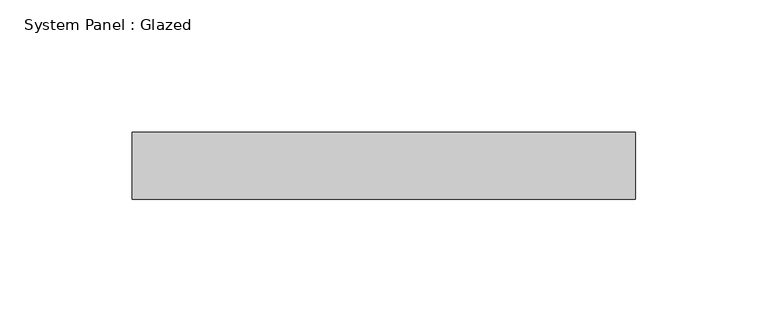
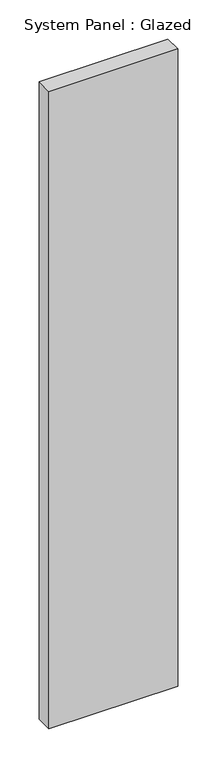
"""IFC4 building model written with IfcOpenShell, lengths in millimetres: plate geometry, System Panel : Glazed."""

from ifc_helpers import new_model, si_unit, origin, origin_with_axes, place, context, project, spatial, polyline, outline, extrude, source, transform, mapped, element, save


def system_panel_glazed_872f95dc(model_context):
    return source(origin(), model_context, "Body", "SweptSolid", [
        extrude(outline(polyline([(95.25, 19.05), (-95.25, 19.05), (-95.25, 44.45), (95.25, 44.45), (95.25, 19.05)])), origin_with_axes(), (0.0, 0.0, 1.0), 996.95),
    ])


if __name__ == "__main__":
    model = new_model("IFC4")
    model_context = context("Model", 3, world=origin())
    ifc_project = project(units=[si_unit("LENGTHUNIT", "METRE", prefix="MILLI")], contexts=[model_context])
    site = spatial("IfcSite", under=ifc_project)
    building = spatial("IfcBuilding", under=site)
    placement = place(None, origin())
    system_panel_glazed_shape = system_panel_glazed_872f95dc(model_context)
    element("IfcPlate", 1, ObjectType="System Panel : Glazed", at=placement, inside=building, context=model_context, shape_type="MappedRepresentation", body=[
        mapped(system_panel_glazed_shape, transform((0.0, 0.0, 0.0), x_axis=(1.0, 0.0, 0.0), y_axis=(0.0, 1.0, 0.0), z_axis=(0.0, 0.0, 1.0))),
    ])
    save(model, "model.ifc")
